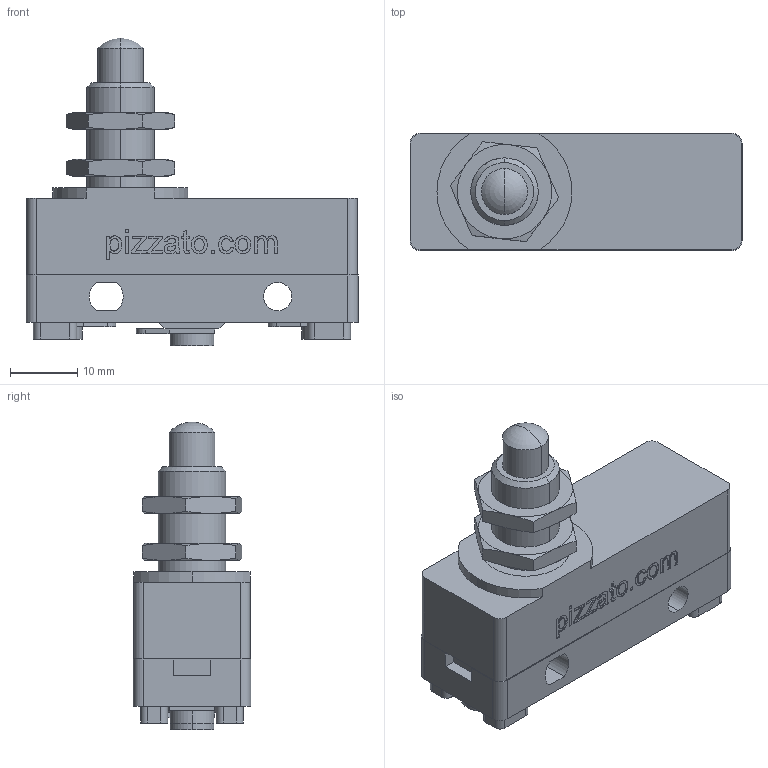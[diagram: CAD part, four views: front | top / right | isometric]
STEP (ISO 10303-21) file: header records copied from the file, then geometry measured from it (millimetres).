
FILE_DESCRIPTION (( 'STEP AP214' ), '1' );
FILE_NAME ('ZF_STEP_MS_10_.step', '2019-08-27T09:24:45', ( 'Pizzato Elettrica' ), ( 'Microsoft' ), 'SwSTEP 2.0', 'SolidWorks 2014', '' );
FILE_SCHEMA (( 'AUTOMOTIVE_DESIGN' ));
Length unit declared in the file: millimetre
Products named in the file (6): Pizzato_supporto+pulsante_MS_10; Pizzato_Dado_83_83; Pizzato_Pulsante MS10; Pizzato_Supporto_MS_10; Pizzato_base 180_MS; ZF_STEP_MS_10_
Assembly tree (6 placements, depth 3):
  ZF_STEP_MS_10_
    Pizzato_base 180_MS
    Pizzato_supporto+pulsante_MS_10
      Pizzato_Supporto_MS_10
      Pizzato_Pulsante MS10
      Pizzato_Dado_83_83  x2
Bounding box: 49.2 x 17.4 x 45.6 mm (x, y, z)
Volume: 17703 mm3; surface area: 9120.1 mm2
Topology: 6 solids, 6 shells, 352 faces, 888 edges, 581 vertices
Faces by surface type: plane 186, cylinder 69, bspline 69, cone 26, torus 2
Entity records: 13555 total; most frequent: CARTESIAN_POINT 5704, ORIENTED_EDGE 1676, DIRECTION 1368, EDGE_CURVE 838, VERTEX_POINT 553, VECTOR 526, LINE 526, AXIS2_PLACEMENT_3D 421
